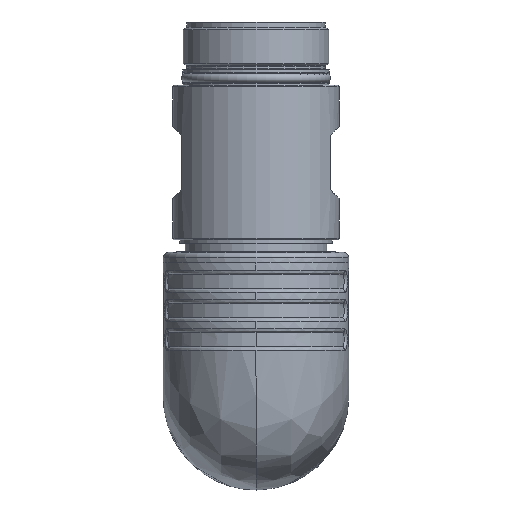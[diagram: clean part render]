
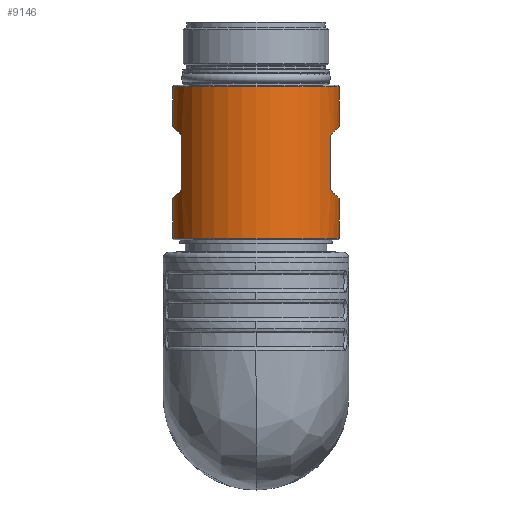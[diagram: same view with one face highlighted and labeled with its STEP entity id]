
A CAD part, front view. The second image highlights one B-rep face of the part: STEP entity #9146.
In plain terms, the highlighted cylindrical face has radius 22.9 mm (diameter 45.8 mm), a full revolution.
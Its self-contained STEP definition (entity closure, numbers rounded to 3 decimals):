
#410=LINE('',#13335,#1053);
#411=LINE('',#13338,#1054);
#412=LINE('',#13343,#1055);
#413=LINE('',#13346,#1056);
#414=LINE('',#13351,#1057);
#415=LINE('',#13354,#1058);
#1053=VECTOR('',#10695,1000.);
#1054=VECTOR('',#10698,1000.);
#1055=VECTOR('',#10701,1000.);
#1056=VECTOR('',#10704,1000.);
#1057=VECTOR('',#10707,1000.);
#1058=VECTOR('',#10710,1000.);
#1696=ELLIPSE('',#9755,32.385,22.9);
#1697=ELLIPSE('',#9756,32.385,22.9);
#1698=ELLIPSE('',#9757,32.385,22.9);
#1699=ELLIPSE('',#9758,32.385,22.9);
#2156=FACE_BOUND('',#2890,.T.);
#2157=FACE_BOUND('',#2891,.T.);
#2158=FACE_BOUND('',#2892,.T.);
#2159=FACE_BOUND('',#2893,.T.);
#2260=CYLINDRICAL_SURFACE('',#9753,22.9);
#2336=FACE_OUTER_BOUND('',#2889,.T.);
#2889=EDGE_LOOP('',(#6072));
#2890=EDGE_LOOP('',(#6073,#6074,#6075,#6076));
#2891=EDGE_LOOP('',(#6077));
#2892=EDGE_LOOP('',(#6078,#6079,#6080,#6081));
#2893=EDGE_LOOP('',(#6082,#6083,#6084,#6085));
#3520=CIRCLE('',#9751,22.9);
#3522=CIRCLE('',#9754,22.9);
#3523=CIRCLE('',#9759,22.9);
#3524=CIRCLE('',#9760,22.9);
#3797=VERTEX_POINT('',#13324);
#3799=VERTEX_POINT('',#13329);
#3800=VERTEX_POINT('',#13331);
#3801=VERTEX_POINT('',#13332);
#3802=VERTEX_POINT('',#13334);
#3803=VERTEX_POINT('',#13336);
#3804=VERTEX_POINT('',#13339);
#3805=VERTEX_POINT('',#13340);
#3806=VERTEX_POINT('',#13342);
#3807=VERTEX_POINT('',#13344);
#3808=VERTEX_POINT('',#13347);
#3809=VERTEX_POINT('',#13348);
#3810=VERTEX_POINT('',#13350);
#3811=VERTEX_POINT('',#13352);
#4729=EDGE_CURVE('',#3797,#3797,#3520,.T.);
#4731=EDGE_CURVE('',#3799,#3799,#3522,.T.);
#4732=EDGE_CURVE('',#3800,#3801,#1696,.T.);
#4733=EDGE_CURVE('',#3800,#3802,#410,.T.);
#4734=EDGE_CURVE('',#3803,#3802,#1697,.T.);
#4735=EDGE_CURVE('',#3801,#3803,#411,.T.);
#4736=EDGE_CURVE('',#3804,#3805,#1698,.T.);
#4737=EDGE_CURVE('',#3806,#3804,#412,.T.);
#4738=EDGE_CURVE('',#3807,#3806,#1699,.T.);
#4739=EDGE_CURVE('',#3807,#3805,#413,.T.);
#4740=EDGE_CURVE('',#3808,#3809,#3523,.T.);
#4741=EDGE_CURVE('',#3808,#3810,#414,.T.);
#4742=EDGE_CURVE('',#3810,#3811,#3524,.T.);
#4743=EDGE_CURVE('',#3809,#3811,#415,.T.);
#6072=ORIENTED_EDGE('',*,*,#4731,.F.);
#6073=ORIENTED_EDGE('',*,*,#4732,.F.);
#6074=ORIENTED_EDGE('',*,*,#4733,.T.);
#6075=ORIENTED_EDGE('',*,*,#4734,.F.);
#6076=ORIENTED_EDGE('',*,*,#4735,.F.);
#6077=ORIENTED_EDGE('',*,*,#4729,.T.);
#6078=ORIENTED_EDGE('',*,*,#4736,.F.);
#6079=ORIENTED_EDGE('',*,*,#4737,.F.);
#6080=ORIENTED_EDGE('',*,*,#4738,.F.);
#6081=ORIENTED_EDGE('',*,*,#4739,.T.);
#6082=ORIENTED_EDGE('',*,*,#4740,.F.);
#6083=ORIENTED_EDGE('',*,*,#4741,.T.);
#6084=ORIENTED_EDGE('',*,*,#4742,.T.);
#6085=ORIENTED_EDGE('',*,*,#4743,.F.);
#9146=ADVANCED_FACE('',(#2336,#2156,#2157,#2158,#2159),#2260,.T.);
#9751=AXIS2_PLACEMENT_3D('',#13325,#10685,#10686);
#9753=AXIS2_PLACEMENT_3D('',#13328,#10689,#10690);
#9754=AXIS2_PLACEMENT_3D('',#13330,#10691,#10692);
#9755=AXIS2_PLACEMENT_3D('',#13333,#10693,#10694);
#9756=AXIS2_PLACEMENT_3D('',#13337,#10696,#10697);
#9757=AXIS2_PLACEMENT_3D('',#13341,#10699,#10700);
#9758=AXIS2_PLACEMENT_3D('',#13345,#10702,#10703);
#9759=AXIS2_PLACEMENT_3D('',#13349,#10705,#10706);
#9760=AXIS2_PLACEMENT_3D('',#13353,#10708,#10709);
#10685=DIRECTION('center_axis',(0.,0.,-1.));
#10686=DIRECTION('ref_axis',(0.,-1.,0.));
#10689=DIRECTION('center_axis',(0.,0.,1.));
#10690=DIRECTION('ref_axis',(1.,0.,0.));
#10691=DIRECTION('center_axis',(0.,0.,-1.));
#10692=DIRECTION('ref_axis',(0.,-1.,0.));
#10693=DIRECTION('center_axis',(0.707,0.,
0.707));
#10694=DIRECTION('ref_axis',(0.707,0.,-0.707));
#10695=DIRECTION('',(0.,0.,1.));
#10696=DIRECTION('center_axis',(0.707,0.,-0.707));
#10697=DIRECTION('ref_axis',(0.707,0.,0.707));
#10698=DIRECTION('',(0.,0.,1.));
#10699=DIRECTION('center_axis',(-0.707,0.,
-0.707));
#10700=DIRECTION('ref_axis',(0.707,0.,-0.707));
#10701=DIRECTION('',(0.,0.,1.));
#10702=DIRECTION('center_axis',(-0.707,0.,
0.707));
#10703=DIRECTION('ref_axis',(0.707,0.,0.707));
#10704=DIRECTION('',(0.,0.,1.));
#10705=DIRECTION('center_axis',(0.,0.,1.));
#10706=DIRECTION('ref_axis',(1.,0.,0.));
#10707=DIRECTION('',(0.,0.,1.));
#10708=DIRECTION('center_axis',(0.,0.,1.));
#10709=DIRECTION('ref_axis',(1.,0.,0.));
#10710=DIRECTION('',(0.,0.,1.));
#13324=CARTESIAN_POINT('',(22.9,0.,-17.8));
#13325=CARTESIAN_POINT('Origin',(0.,0.,-17.8));
#13328=CARTESIAN_POINT('Origin',(0.,0.,-90.93));
#13329=CARTESIAN_POINT('',(22.9,0.,-59.5));
#13330=CARTESIAN_POINT('Origin',(0.,0.,-59.5));
#13331=CARTESIAN_POINT('',(20.5,-10.206,-46.15));
#13332=CARTESIAN_POINT('',(20.5,10.206,-46.15));
#13333=CARTESIAN_POINT('Origin',(0.,0.,
-25.65));
#13334=CARTESIAN_POINT('',(20.5,-10.206,-31.15));
#13335=CARTESIAN_POINT('',(20.5,-10.206,-46.15));
#13336=CARTESIAN_POINT('',(20.5,10.206,-31.15));
#13337=CARTESIAN_POINT('Origin',(0.,0.,
-51.65));
#13338=CARTESIAN_POINT('',(20.5,10.206,-46.15));
#13339=CARTESIAN_POINT('',(-20.5,-10.206,-31.15));
#13340=CARTESIAN_POINT('',(-20.5,10.206,-31.15));
#13341=CARTESIAN_POINT('Origin',(0.,0.,
-51.65));
#13342=CARTESIAN_POINT('',(-20.5,-10.206,-46.15));
#13343=CARTESIAN_POINT('',(-20.5,-10.206,-46.15));
#13344=CARTESIAN_POINT('',(-20.5,10.206,-46.15));
#13345=CARTESIAN_POINT('Origin',(0.,0.,
-25.65));
#13346=CARTESIAN_POINT('',(-20.5,10.206,-46.15));
#13347=CARTESIAN_POINT('',(0.397,22.897,-56.9));
#13348=CARTESIAN_POINT('',(-0.397,22.897,-56.9));
#13349=CARTESIAN_POINT('Origin',(0.,0.,-56.9));
#13350=CARTESIAN_POINT('',(0.397,22.897,-20.4));
#13351=CARTESIAN_POINT('',(0.397,22.897,-56.9));
#13352=CARTESIAN_POINT('',(-0.397,22.897,-20.4));
#13353=CARTESIAN_POINT('Origin',(0.,0.,-20.4));
#13354=CARTESIAN_POINT('',(-0.397,22.897,-56.9));
